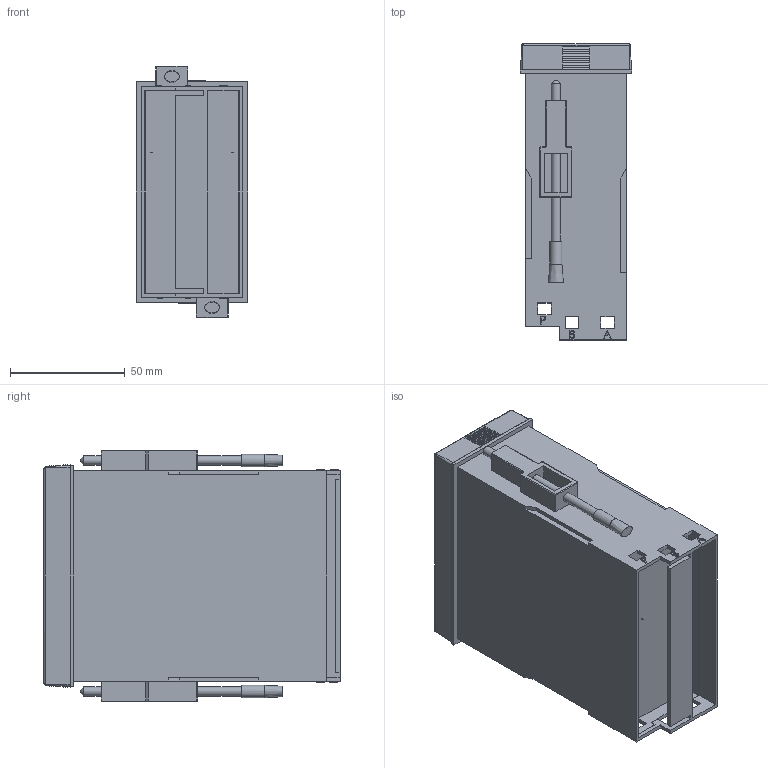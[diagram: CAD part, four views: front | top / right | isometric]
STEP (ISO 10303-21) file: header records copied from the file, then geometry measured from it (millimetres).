
FILE_DESCRIPTION( ( '' ), '1' );
FILE_NAME( '//SERVER/Users/WC000/WC011/WORKING/DEV/V 1-00/8800/8800 - CC -01.stp', '2017-04-05T19:33:32', ( 'KPM' ), ( 'KMC Design' ), 'PSStep 17.0.49', ' ', ' ' );
FILE_SCHEMA( ( 'AUTOMOTIVE_DESIGN { 1 0 10303 214 1 1 1 1 }' ) );
Length unit declared in the file: millimetre
Products named in the file (7): Assem1; KS40 Housing; 4012-141-58553 Screw Type (P); 4012-141-58563 Screw Type (A B C); KS40 Front_KS98-2; CLAMP; overlay_8800
Assembly tree (7 placements, depth 2):
  Assem1
    KS40 Housing
    4012-141-58553 Screw Type (P)
    4012-141-58563 Screw Type (A B C)
    KS40 Front_KS98-2
    CLAMP  x2
    overlay_8800
Bounding box: 48.3 x 128.9 x 109.5 mm (x, y, z)
Volume: 466413.1 mm3; surface area: 75744.9 mm2
Topology: 7 solids, 7 shells, 482 faces, 1210 edges, 764 vertices
Faces by surface type: plane 328, cylinder 72, extrusion 30, torus 30, bspline 10, cone 8, sphere 4
Full cylindrical faces by diameter (mm): 2.9 x2, 4 x6, 5.3 x2
Entity records: 20486 total; most frequent: CARTESIAN_POINT 6499, ORIENTED_EDGE 2170, DIRECTION 2005, EDGE_CURVE 1085, VECTOR 879, LINE 849, VERTEX_POINT 692, AXIS2_PLACEMENT_3D 563
